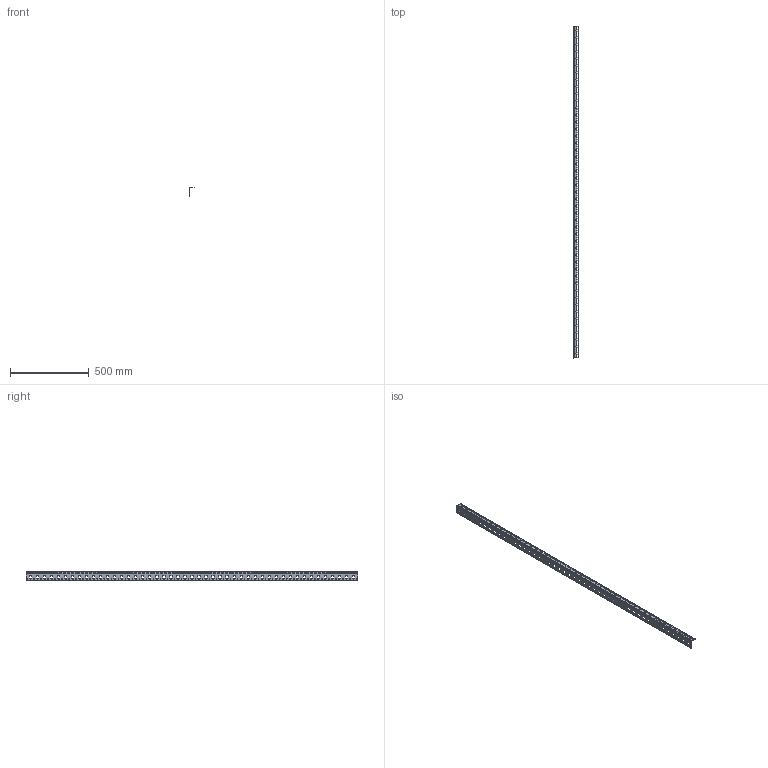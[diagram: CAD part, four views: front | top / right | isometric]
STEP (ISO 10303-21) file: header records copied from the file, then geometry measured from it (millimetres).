
FILE_DESCRIPTION (( 'STEP AP214' ), '1' );
FILE_NAME ('MRD 220 IT 47U Ðåéêà âåðòèêàëüíàÿ 19''''.STEP', '2023-11-18T07:45:04', ( '' ), ( '' ), 'SwSTEP 2.0', 'SolidWorks 2019', '' );
FILE_SCHEMA (( 'AUTOMOTIVE_DESIGN' ));
Length unit declared in the file: millimetre
Products named in the file (1): MRD 220 IT 47U Ðåéêà âåðòèêàëüíàÿ 19''''
Bounding box: 31 x 2102 x 61.5 mm (x, y, z)
Volume: 321547.7 mm3; surface area: 354908.4 mm2
Topology: 1 solids, 1 shells, 1623 faces, 4855 edges, 3234 vertices
Faces by surface type: plane 905, cylinder 718
Entity records: 56903 total; most frequent: CARTESIAN_POINT 9713, ORIENTED_EDGE 9710, DIRECTION 9539, EDGE_CURVE 4855, LINE 3419, VECTOR 3419, VERTEX_POINT 3234, AXIS2_PLACEMENT_3D 3060
